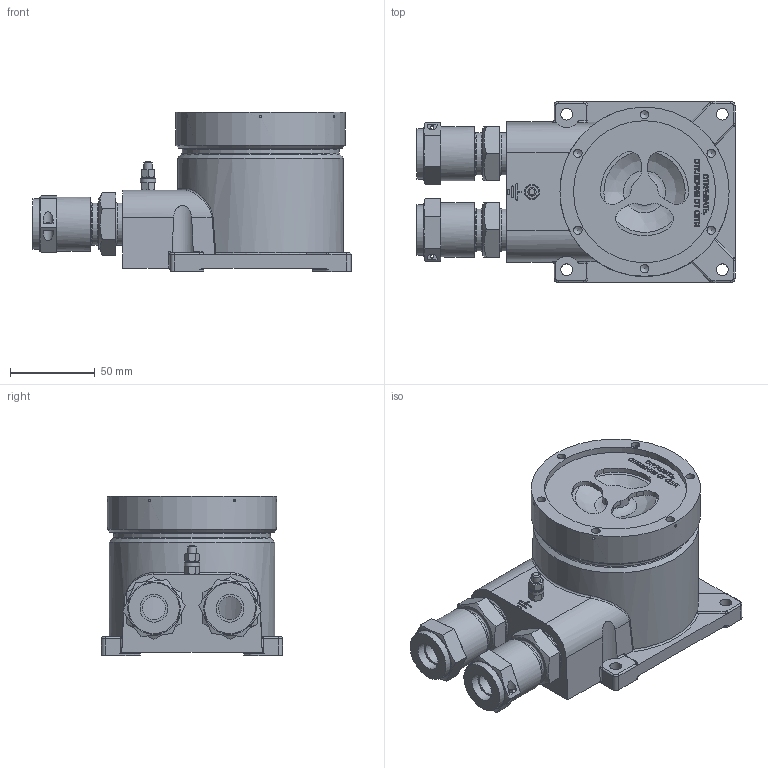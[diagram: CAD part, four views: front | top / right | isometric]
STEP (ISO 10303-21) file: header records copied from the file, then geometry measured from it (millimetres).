
FILE_DESCRIPTION(('STEP AP242'), '1');
FILE_NAME('908.3203.00.000ÑÁ Îáû÷íûå Àëþìèíèé', '', ('UNSPECIFIED'), ('UNSPECIFIED'), 'ASCON STEP Converter 1.6', 'ASCON Math Kernel', '');
FILE_SCHEMA(('AP242_MANAGED_MODEL_BASED_3D_ENGINEERING_MIM_LF { 1 0 10303 442 1 1 4 }'));
Length unit declared in the file: millimetre
Bounding box: 188 x 107 x 94 mm (x, y, z)
Volume: 482765.2 mm3; surface area: 126536.1 mm2
Topology: 1 solids, 1 shells, 819 faces, 2112 edges, 1374 vertices
Faces by surface type: plane 416, cylinder 161, bspline 151, torus 47, cone 44
Full cylindrical faces by diameter (mm): 1.5 x6, 2 x2, 3.242 x3, 5 x10, 5.3 x2, 7 x4, 9 x2, 13.6 x2, 14 x2, 15 x2, 16 x1, 16.5 x4, 23.752 x1, 24.8 x4, 25.376 x1, 27 x2, 30 x2, 32 x2, 46.2 x1, 55 x1, 60 x1, 80 x1, 84 x1, 85 x1, 87 x1, 92.8 x1, 98 x1, 100 x1
Entity records: 38956 total; most frequent: CARTESIAN_POINT 13921, ORIENTED_EDGE 3938, DIRECTION 3304, EDGE_CURVE 1969, VERTEX_POINT 1357, AXIS2_PLACEMENT_3D 1113, LINE 1078, VECTOR 1078
